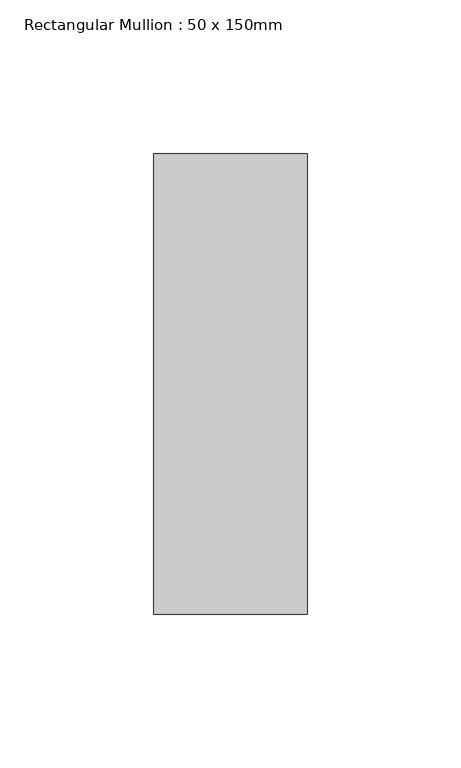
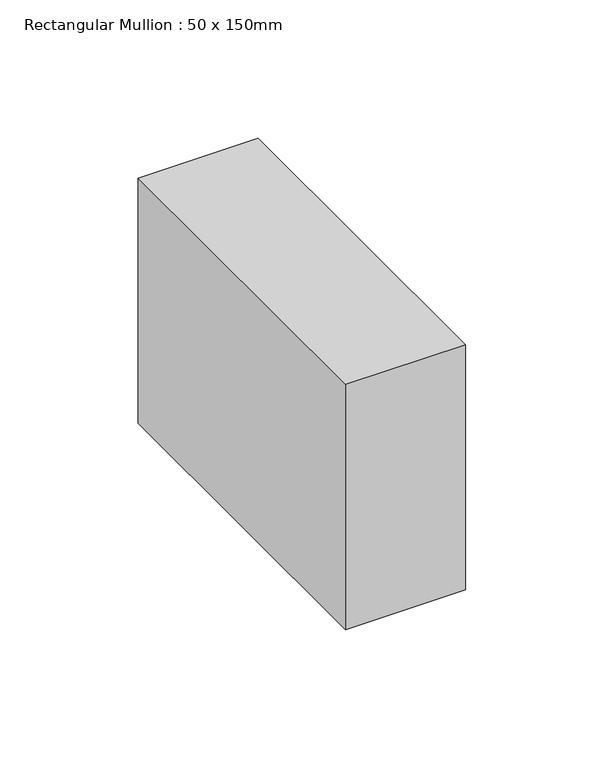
"""IFC4 building model written with IfcOpenShell, lengths in millimetres: member geometry, Rectangular Mullion : 50 x 150mm."""

from ifc_helpers import new_model, si_unit, frame, origin, place, context, project, spatial, polyline, outline, extrude, source, transform, mapped, element, save


def rectangular_mullion_50_x_150mm_84181acf(model_context):
    return source(origin(), model_context, "Body", "SweptSolid", [
        extrude(outline(polyline([(25.0, 75.0), (25.0, -75.0), (-25.0, -75.0), (-25.0, 75.0), (25.0, 75.0)])), frame((0.0, 0.0, -108.25), z_axis=(0.0, 0.0, 1.0), x_axis=(1.0, 0.0, 0.0)), (0.0, 0.0, 1.0), 108.25),
    ])


if __name__ == "__main__":
    model = new_model("IFC4")
    model_context = context("Model", 3, world=origin())
    ifc_project = project(units=[si_unit("LENGTHUNIT", "METRE", prefix="MILLI")], contexts=[model_context])
    site = spatial("IfcSite", under=ifc_project)
    building = spatial("IfcBuilding", under=site)
    placement = place(None, origin())
    rectangular_mullion_50_x_150mm_shape = rectangular_mullion_50_x_150mm_84181acf(model_context)
    element("IfcMember", 1, ObjectType="Rectangular Mullion : 50 x 150mm", at=placement, inside=building, context=model_context, shape_type="MappedRepresentation", body=[
        mapped(rectangular_mullion_50_x_150mm_shape, transform((0.0, 0.0, 0.0), x_axis=(1.0, 0.0, 0.0), y_axis=(0.0, 1.0, 0.0), z_axis=(0.0, 0.0, 1.0))),
    ])
    save(model, "model.ifc")
